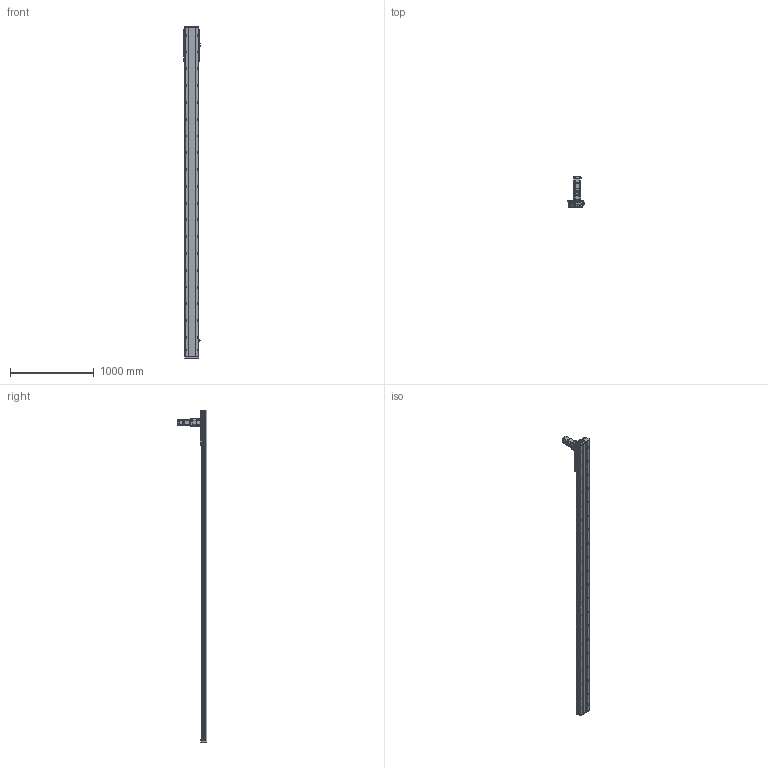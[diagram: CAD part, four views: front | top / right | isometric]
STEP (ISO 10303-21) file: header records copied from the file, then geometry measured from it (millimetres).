
FILE_DESCRIPTION (( 'STEP AP214' ), '1' );
FILE_NAME ('SHS170-S3500.STEP', '2022-12-05T08:46:38', ( '' ), ( '' ), 'SwSTEP 2.0', 'SolidWorks 2020', '' );
FILE_SCHEMA (( 'AUTOMOTIVE_DESIGN' ));
Length unit declared in the file: millimetre
Products named in the file (11): SHS170-S3500; SHS170______.step; MSB20S_____.step; CHMH-020-20.step; SHS170-S3500.step; SB-90-3-P2-C20807_203.step; SHS170-DZ-3500_____________.step; 錨璃45^SHS170-S3500; SGMJV-08A3A6E.step; EE-SX672.step; SHS170____.step
Assembly tree (18 placements, depth 3):
  SHS170-S3500
    SHS170-S3500.step
      SHS170-DZ-3500_____________.step
      MSB20S_____.step  x7
      SHS170____.step
      SHS170______.step
      SB-90-3-P2-C20807_203.step
      CHMH-020-20.step
      SGMJV-08A3A6E.step
      EE-SX672.step  x3
    錨璃45^SHS170-S3500
Bounding box: 193.7 x 355.6 x 3955 mm (x, y, z)
Volume: 20842621.5 mm3; surface area: 5282347.1 mm2
Topology: 107 solids, 107 shells, 5254 faces, 14333 edges, 9353 vertices
Faces by surface type: plane 2744, cylinder 1504, bspline 667, cone 339
Entity records: 170901 total; most frequent: CARTESIAN_POINT 63941, ORIENTED_EDGE 23474, DIRECTION 19443, EDGE_CURVE 11737, VERTEX_POINT 7737, LINE 7285, VECTOR 7285, AXIS2_PLACEMENT_3D 6079
